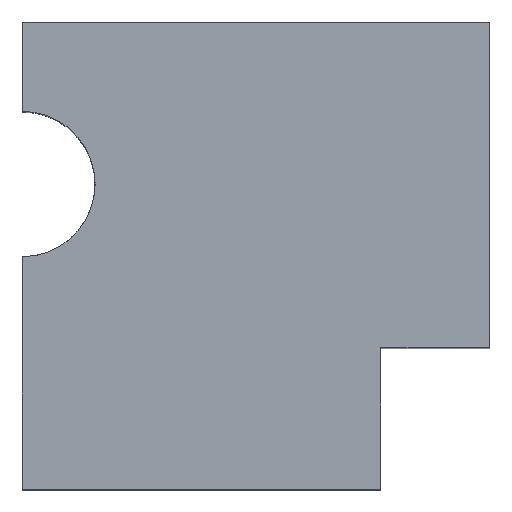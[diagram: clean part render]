
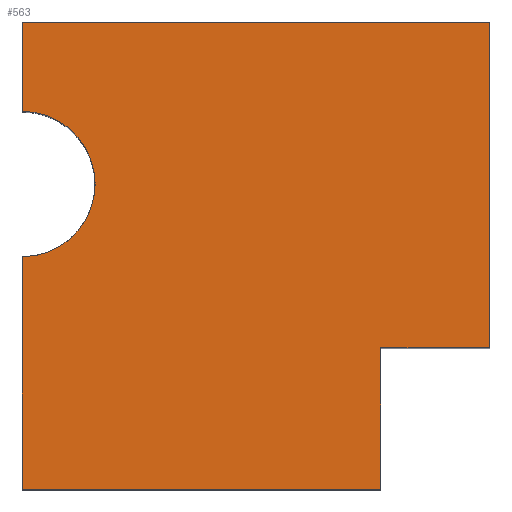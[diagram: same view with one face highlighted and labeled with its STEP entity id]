
A CAD part, top view. The second image highlights one B-rep face of the part: STEP entity #563.
In plain terms, the highlighted planar face has unit normal (0, 0, 1).
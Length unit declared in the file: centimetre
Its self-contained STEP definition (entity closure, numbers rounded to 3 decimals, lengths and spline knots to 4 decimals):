
#15 = CARTESIAN_POINT ( 'NONE',  ( 0., 1000., 1000. ) ) ;
#18 = EDGE_CURVE ( 'NONE', #96, #524, #567, .T. ) ;
#29 = CARTESIAN_POINT ( 'NONE',  ( 1000., 1000., 1000. ) ) ;
#33 = DIRECTION ( 'NONE',  ( -1., 0., 0. ) ) ;
#48 = VERTEX_POINT ( 'NONE', #467 ) ;
#64 = EDGE_CURVE ( 'NONE', #571, #96, #375, .T. ) ;
#67 = CARTESIAN_POINT ( 'NONE',  ( 0., 497.5516, 1000. ) ) ;
#90 = CARTESIAN_POINT ( 'NONE',  ( 0., 0., 1000. ) ) ;
#96 = VERTEX_POINT ( 'NONE', #410 ) ;
#101 = VECTOR ( 'NONE', #436, 100. ) ;
#106 = VERTEX_POINT ( 'NONE', #148 ) ;
#109 = LINE ( 'NONE', #518, #430 ) ;
#116 = PLANE ( 'NONE',  #419 ) ;
#118 = VERTEX_POINT ( 'NONE', #287 ) ;
#135 = VECTOR ( 'NONE', #280, 100. ) ;
#148 = CARTESIAN_POINT ( 'NONE',  ( 1000., 1000., 1000. ) ) ;
#149 = VECTOR ( 'NONE', #175, 100. ) ;
#165 = ORIENTED_EDGE ( 'NONE', *, *, #218, .T. ) ;
#175 = DIRECTION ( 'NONE',  ( 0., 1., 0. ) ) ;
#176 = VECTOR ( 'NONE', #33, 100. ) ;
#178 = CARTESIAN_POINT ( 'NONE',  ( 0., 1000., 1000. ) ) ;
#207 = VECTOR ( 'NONE', #547, 100. ) ;
#218 = EDGE_CURVE ( 'NONE', #48, #106, #581, .T. ) ;
#243 = ORIENTED_EDGE ( 'NONE', *, *, #532, .T. ) ;
#261 = FACE_OUTER_BOUND ( 'NONE', #385, .T. ) ;
#272 = EDGE_CURVE ( 'NONE', #118, #466, #285, .T. ) ;
#276 = CARTESIAN_POINT ( 'NONE',  ( 767.1425, 302.4707, 1000. ) ) ;
#280 = DIRECTION ( 'NONE',  ( 1., 0., 0. ) ) ;
#284 = DIRECTION ( 'NONE',  ( 0., -1., 0. ) ) ;
#285 = LINE ( 'NONE', #90, #135 ) ;
#287 = CARTESIAN_POINT ( 'NONE',  ( 0., 0., 1000. ) ) ;
#299 = VERTEX_POINT ( 'NONE', #276 ) ;
#300 = LINE ( 'NONE', #178, #101 ) ;
#341 = ORIENTED_EDGE ( 'NONE', *, *, #18, .T. ) ;
#349 = VECTOR ( 'NONE', #284, 100. ) ;
#355 = CARTESIAN_POINT ( 'NONE',  ( 767.1425, 0., 1000. ) ) ;
#364 = LINE ( 'NONE', #355, #207 ) ;
#375 = LINE ( 'NONE', #503, #349 ) ;
#385 = EDGE_LOOP ( 'NONE', ( #597, #474, #165, #522, #390, #341, #243, #548 ) ) ;
#386 = LINE ( 'NONE', #15, #176 ) ;
#390 = ORIENTED_EDGE ( 'NONE', *, *, #64, .T. ) ;
#395 = EDGE_CURVE ( 'NONE', #299, #466, #364, .T. ) ;
#410 = CARTESIAN_POINT ( 'NONE',  ( 0., 808.7403, 1000. ) ) ;
#419 = AXIS2_PLACEMENT_3D ( 'NONE', #479, #573, #530 ) ;
#420 = DIRECTION ( 'NONE',  ( -1., 0., 0. ) ) ;
#430 = VECTOR ( 'NONE', #521, 100. ) ;
#436 = DIRECTION ( 'NONE',  ( 0., -1., 0. ) ) ;
#455 = CARTESIAN_POINT ( 'NONE',  ( 0., 653.146, 1000. ) ) ;
#466 = VERTEX_POINT ( 'NONE', #519 ) ;
#467 = CARTESIAN_POINT ( 'NONE',  ( 1000., 302.4707, 1000. ) ) ;
#474 = ORIENTED_EDGE ( 'NONE', *, *, #480, .F. ) ;
#479 = CARTESIAN_POINT ( 'NONE',  ( 0., 0., 1000. ) ) ;
#480 = EDGE_CURVE ( 'NONE', #48, #299, #109, .T. ) ;
#491 = CARTESIAN_POINT ( 'NONE',  ( 0., 1000., 1000. ) ) ;
#503 = CARTESIAN_POINT ( 'NONE',  ( 0., 1000., 1000. ) ) ;
#511 = AXIS2_PLACEMENT_3D ( 'NONE', #455, #551, #420 ) ;
#518 = CARTESIAN_POINT ( 'NONE',  ( 767.1425, 302.4707, 1000. ) ) ;
#519 = CARTESIAN_POINT ( 'NONE',  ( 767.1425, 0., 1000. ) ) ;
#521 = DIRECTION ( 'NONE',  ( -1., 0., 0. ) ) ;
#522 = ORIENTED_EDGE ( 'NONE', *, *, #526, .T. ) ;
#524 = VERTEX_POINT ( 'NONE', #67 ) ;
#526 = EDGE_CURVE ( 'NONE', #106, #571, #386, .T. ) ;
#530 = DIRECTION ( 'NONE',  ( 1., 0., 0. ) ) ;
#532 = EDGE_CURVE ( 'NONE', #524, #118, #300, .T. ) ;
#547 = DIRECTION ( 'NONE',  ( 0., -1., 0. ) ) ;
#548 = ORIENTED_EDGE ( 'NONE', *, *, #272, .T. ) ;
#551 = DIRECTION ( 'NONE',  ( 0., 0., -1. ) ) ;
#563 = ADVANCED_FACE ( 'NONE', ( #261 ), #116, .T. ) ;
#567 = CIRCLE ( 'NONE', #511, 155.5943 ) ;
#571 = VERTEX_POINT ( 'NONE', #491 ) ;
#573 = DIRECTION ( 'NONE',  ( 0., 0., 1. ) ) ;
#581 = LINE ( 'NONE', #29, #149 ) ;
#597 = ORIENTED_EDGE ( 'NONE', *, *, #395, .F. ) ;
